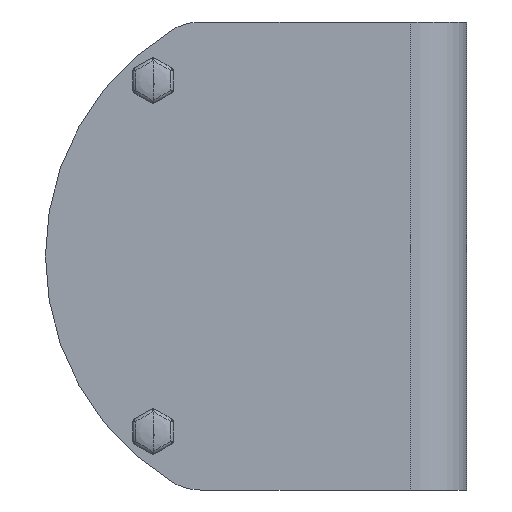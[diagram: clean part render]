
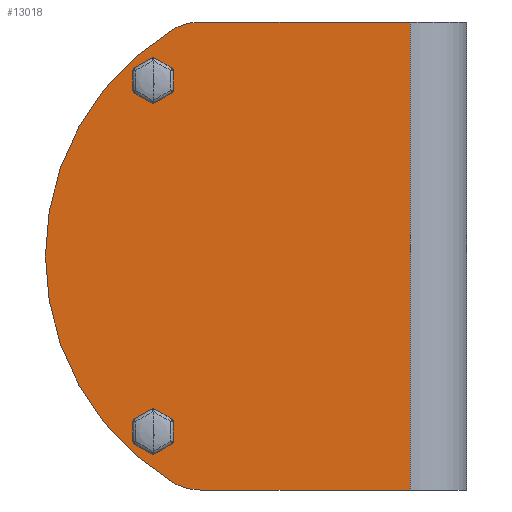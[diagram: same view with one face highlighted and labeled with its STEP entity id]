
A CAD part, left-side view. The second image highlights one B-rep face of the part: STEP entity #13018.
In plain terms, the highlighted planar face has unit normal (-1, 0, 0) as drawn and (0, 0, 1) by its records, which use the part's own axes.
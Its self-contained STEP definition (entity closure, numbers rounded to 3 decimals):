
#12367=CARTESIAN_POINT('',(-38.,56.809,162.));
#12368=DIRECTION('',(0.,0.,-1.));
#12369=DIRECTION('',(-1.,0.,0.));
#12370=AXIS2_PLACEMENT_3D('',#12367,#12368,#12369);
#12372=CARTESIAN_POINT('',(0.,33.333,162.));
#12373=DIRECTION('',(0.,0.,-1.));
#12374=DIRECTION('',(-0.851,0.526,0.));
#12375=AXIS2_PLACEMENT_3D('',#12372,#12373,#12374);
#12377=CARTESIAN_POINT('',(38.,56.809,162.));
#12378=DIRECTION('',(0.,0.,-1.));
#12379=DIRECTION('',(0.851,0.526,0.));
#12380=AXIS2_PLACEMENT_3D('',#12377,#12378,#12379);
#12382=DIRECTION('',(0.,-1.,0.));
#12383=VECTOR('',#12382,44.809);
#12384=CARTESIAN_POINT('',(50.,56.809,162.));
#12385=LINE('',#12384,#12383);
#12386=DIRECTION('',(0.,1.,0.));
#12387=VECTOR('',#12386,44.809);
#12388=CARTESIAN_POINT('',(-50.,12.,162.));
#12389=LINE('',#12388,#12387);
#12390=CARTESIAN_POINT('',(37.5,67.,162.));
#12391=DIRECTION('',(0.,0.,1.));
#12392=DIRECTION('',(0.,-1.,0.));
#12393=AXIS2_PLACEMENT_3D('',#12390,#12391,#12392);
#12395=CARTESIAN_POINT('',(37.5,67.,162.));
#12396=DIRECTION('',(0.,0.,1.));
#12397=DIRECTION('',(0.,1.,0.));
#12398=AXIS2_PLACEMENT_3D('',#12395,#12396,#12397);
#12400=CARTESIAN_POINT('',(-37.5,67.,162.));
#12401=DIRECTION('',(0.,0.,1.));
#12402=DIRECTION('',(0.,-1.,0.));
#12403=AXIS2_PLACEMENT_3D('',#12400,#12401,#12402);
#12405=CARTESIAN_POINT('',(-37.5,67.,162.));
#12406=DIRECTION('',(0.,0.,1.));
#12407=DIRECTION('',(0.,1.,0.));
#12408=AXIS2_PLACEMENT_3D('',#12405,#12406,#12407);
#12410=DIRECTION('',(1.,0.,0.));
#12411=VECTOR('',#12410,100.);
#12412=CARTESIAN_POINT('',(-50.,12.,162.));
#12413=LINE('',#12412,#12411);
#12730=CARTESIAN_POINT('',(50.,56.809,162.));
#12732=VERTEX_POINT('',#12730);
#12745=CARTESIAN_POINT('',(50.,12.,162.));
#12746=VERTEX_POINT('',#12745);
#12749=CARTESIAN_POINT('',(48.209,63.116,162.));
#12750=VERTEX_POINT('',#12749);
#12765=CARTESIAN_POINT('',(-48.209,63.116,162.));
#12766=VERTEX_POINT('',#12765);
#12767=CARTESIAN_POINT('',(-50.,56.809,162.));
#12768=VERTEX_POINT('',#12767);
#12771=CARTESIAN_POINT('',(-50.,12.,162.));
#12772=VERTEX_POINT('',#12771);
#12773=CARTESIAN_POINT('',(37.5,64.25,162.));
#12774=CARTESIAN_POINT('',(37.5,69.75,162.));
#12775=VERTEX_POINT('',#12773);
#12776=VERTEX_POINT('',#12774);
#12777=CARTESIAN_POINT('',(-37.5,64.25,162.));
#12778=CARTESIAN_POINT('',(-37.5,69.75,162.));
#12779=VERTEX_POINT('',#12777);
#12780=VERTEX_POINT('',#12778);
#12991=CARTESIAN_POINT('',(0.,0.,162.));
#12992=DIRECTION('',(0.,0.,1.));
#12993=DIRECTION('',(1.,0.,0.));
#12994=AXIS2_PLACEMENT_3D('',#12991,#12992,#12993);
#12995=PLANE('',#12994);
#12996=ORIENTED_EDGE('',*,*,#12971,.T.);
#12997=ORIENTED_EDGE('',*,*,#12986,.T.);
#12998=ORIENTED_EDGE('',*,*,#12926,.T.);
#12999=ORIENTED_EDGE('',*,*,#12913,.T.);
#13001=ORIENTED_EDGE('',*,*,#13000,.F.);
#13003=ORIENTED_EDGE('',*,*,#13002,.T.);
#13004=EDGE_LOOP('',(#12996,#12997,#12998,#12999,#13001,#13003));
#13005=FACE_OUTER_BOUND('',#13004,.F.);
#13007=ORIENTED_EDGE('',*,*,#13006,.T.);
#13009=ORIENTED_EDGE('',*,*,#13008,.T.);
#13010=EDGE_LOOP('',(#13007,#13009));
#13011=FACE_BOUND('',#13010,.F.);
#13013=ORIENTED_EDGE('',*,*,#13012,.T.);
#13015=ORIENTED_EDGE('',*,*,#13014,.T.);
#13016=EDGE_LOOP('',(#13013,#13015));
#13017=FACE_BOUND('',#13016,.F.);
#13018=ADVANCED_FACE('',(#13005,#13011,#13017),#12995,.T.);
#12371=CIRCLE('',#12370,12.);
#12376=CIRCLE('',#12375,56.667);
#12381=CIRCLE('',#12380,12.);
#12394=CIRCLE('',#12393,2.75);
#12399=CIRCLE('',#12398,2.75);
#12404=CIRCLE('',#12403,2.75);
#12409=CIRCLE('',#12408,2.75);
#12913=EDGE_CURVE('',#12732,#12746,#12385,.T.);
#12926=EDGE_CURVE('',#12750,#12732,#12381,.T.);
#12971=EDGE_CURVE('',#12768,#12766,#12371,.T.);
#12986=EDGE_CURVE('',#12766,#12750,#12376,.T.);
#13000=EDGE_CURVE('',#12772,#12746,#12413,.T.);
#13002=EDGE_CURVE('',#12772,#12768,#12389,.T.);
#13006=EDGE_CURVE('',#12775,#12776,#12394,.T.);
#13008=EDGE_CURVE('',#12776,#12775,#12399,.T.);
#13012=EDGE_CURVE('',#12779,#12780,#12404,.T.);
#13014=EDGE_CURVE('',#12780,#12779,#12409,.T.);
